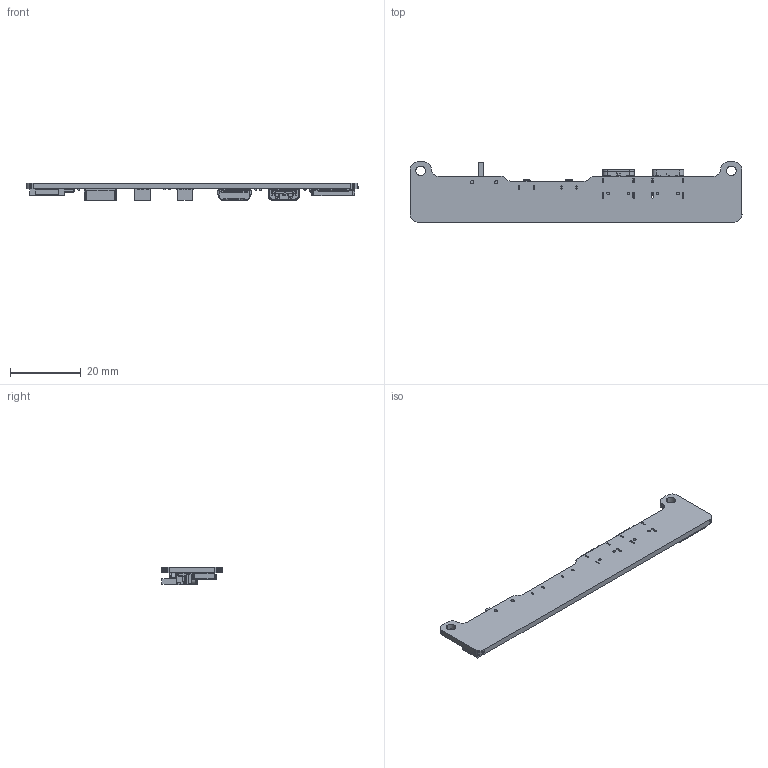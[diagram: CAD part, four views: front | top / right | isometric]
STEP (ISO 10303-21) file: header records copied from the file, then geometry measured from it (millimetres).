
FILE_DESCRIPTION((''),'2;1');
FILE_NAME('ESP32-P4-WIFI6-TOUCH-LCD-PCBA-S_ASM','2026-03-12T11:12:15',('xiaojisheng'),(''),'CREO PARAMETRIC BY PTC INC, 2021063','CREO PARAMETRIC BY PTC INC, 2021063','');
FILE_SCHEMA(('CONFIG_CONTROL_DESIGN','SHAPE_APPEARANCE_LAYERS_GROUPS'));
Products named in the file (5): TYPE-C_16PIN-9X3X7_3; SWITCH-90D-9X3_5X3_5_7-SMT; 4PINX1_25-SMT; ESP32-P4-CONNECTOR-ADAPTER_REV1; ESP32-P4-WIFI6-TOUCH-LCD-PCBA-S_ASM
Assembly tree (5 placements, depth 2):
  ESP32-P4-WIFI6-TOUCH-LCD-PCBA-S_ASM
    TYPE-C_16PIN-9X3X7_3  x2
    SWITCH-90D-9X3_5X3_5_7-SMT
    4PINX1_25-SMT
    ESP32-P4-CONNECTOR-ADAPTER_REV1
Bounding box: 94.02 x 17.02 x 5 mm (x, y, z)
Volume: 2508.5 mm3; surface area: 5408.5 mm2
Topology: 7 solids, 24 shells, 4694 faces, 13899 edges, 9316 vertices
Faces by surface type: plane 3316, cylinder 1086, extrusion 154, sphere 72, cone 48, bspline 14, torus 4
Entity records: 171612 total; most frequent: CARTESIAN_POINT 38999, ORIENTED_EDGE 23954, DIRECTION 20480, EDGE_CURVE 11977, VECTOR 8920, LINE 8766, VERTEX_POINT 8114, AXIS2_PLACEMENT_3D 5780
